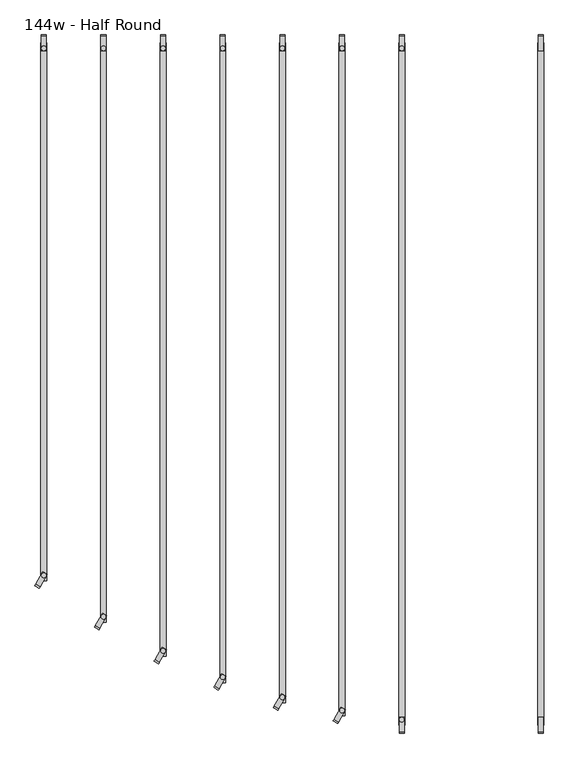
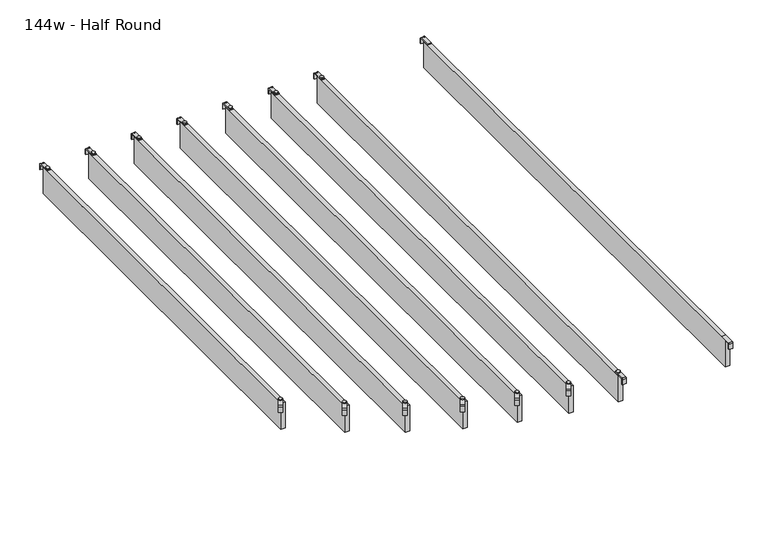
"""IFC4 building model written with IfcOpenShell, lengths in millimetres: furniture geometry, Haworth_Pergola_Ceiling_Slat_Radial : 144w - Half Round."""

from ifc_helpers import new_model, si_unit, point, frame, frame_2d, origin, place, context, project, spatial, polyline, circle_curve, trimmed, segment, composite_curve, outline, extrude, source, transform, mapped, element, save


def furniture_144w_half_round_7459aa78(model_context):
    return source(origin(), model_context, "Body", "SweptSolid", [
        extrude(outline(composite_curve([segment(polyline([(2253.0946, 2419.2231711), (2250.4345993, 2419.2231711), (2250.4345993, 2437.2635571)]), True, "CONTINUOUS"), segment(trimmed(circle_curve(frame_2d((2249.4251568, 2437.2635571)), 1.0094425), [point((2250.4345993, 2437.2635571))], [point((2249.4251568, 2438.2729997))], True, "CARTESIAN"), True, "CONTINUOUS"), segment(polyline([(2249.4251568, 2438.2729997), (2212.4346, 2438.2729997), (2212.4346, 2440.9329992), (2249.4116, 2440.9329992)]), True, "CONTINUOUS"), segment(trimmed(circle_curve(frame_2d((2249.4116, 2437.2499992)), 3.683), [point((2249.4116, 2440.9329992))], [point((2253.0946, 2437.2499992))], False, "CARTESIAN"), True, "CONTINUOUS"), segment(polyline([(2253.0946, 2437.2499992), (2253.0946, 2419.2231711)]), True, "CONTINUOUS")], self_intersect=False)), frame((209.4069997, 0.0, 0.0), z_axis=(1.0, 0.0, 0.0), x_axis=(0.0, 1.0, 0.0)), (0.0, 0.0, 1.0), 13.0),
        extrude(outline(composite_curve([segment(polyline([(471.1824, 2419.2231711), (471.1824, 2437.2499992)]), True, "CONTINUOUS"), segment(trimmed(circle_curve(frame_2d((474.8654, 2437.2499992)), 3.683), [point((471.1824, 2437.2499992))], [point((474.8654, 2440.9329992))], False, "CARTESIAN"), True, "CONTINUOUS"), segment(polyline([(474.8654, 2440.9329992), (511.8424, 2440.9329992), (511.8424, 2438.2729997), (474.8518432, 2438.2729997)]), True, "CONTINUOUS"), segment(trimmed(circle_curve(frame_2d((474.8518432, 2437.2635571)), 1.0094425), [point((474.8518432, 2438.2729997))], [point((473.8424007, 2437.2635571))], True, "CARTESIAN"), True, "CONTINUOUS"), segment(polyline([(473.8424007, 2437.2635571), (473.8424007, 2419.2231711), (471.1824, 2419.2231711)]), True, "CONTINUOUS")], self_intersect=False)), frame((209.4069997, 0.0, 0.0), z_axis=(1.0, 0.0, 0.0), x_axis=(0.0, 1.0, 0.0)), (0.0, 0.0, 1.0), 13.0),
        extrude(outline(polyline([(208.407, 491.6424), (208.407, 2232.6346), (223.393, 2232.6346), (223.393, 491.6424), (208.407, 491.6424)])), frame((0.0, 0.0, 2346.198), z_axis=(0.0, 0.0, 1.0), x_axis=(1.0, 0.0, 0.0)), (0.0, 0.0, 1.0), 92.202),
        extrude(outline(composite_curve([segment(trimmed(circle_curve(frame_2d((-139.7, 2218.9346)), 5.9838099), [point((-139.7, 2212.9507901))], [point((-139.7, 2224.9184099))], False, "CARTESIAN"), True, "CONTINUOUS"), segment(trimmed(circle_curve(frame_2d((-139.7, 2218.9346)), 5.9838099), [point((-139.7, 2224.9184099))], [point((-139.7, 2212.9507901))], False, "CARTESIAN"), True, "CONTINUOUS")], self_intersect=False)), frame((0.0, 0.0, 2440.9329992), z_axis=(0.0, 0.0, 1.0), x_axis=(1.0, 0.0, 0.0)), (0.0, 0.0, 1.0), 3.4400008),
        extrude(outline(composite_curve([segment(trimmed(circle_curve(frame_2d((-139.7, 505.3424)), 5.9838099), [point((-139.7, 511.3262099))], [point((-139.7, 499.3585901))], False, "CARTESIAN"), True, "CONTINUOUS"), segment(trimmed(circle_curve(frame_2d((-139.7, 505.3424)), 5.9838099), [point((-139.7, 499.3585901))], [point((-139.7, 511.3262099))], False, "CARTESIAN"), True, "CONTINUOUS")], self_intersect=False)), frame((0.0, 0.0, 2440.9329992), z_axis=(0.0, 0.0, 1.0), x_axis=(1.0, 0.0, 0.0)), (0.0, 0.0, 1.0), 3.4400008),
        extrude(outline(composite_curve([segment(polyline([(2253.0946, 2419.2231711), (2250.4345993, 2419.2231711), (2250.4345993, 2437.2635571)]), True, "CONTINUOUS"), segment(trimmed(circle_curve(frame_2d((2249.4251568, 2437.2635571)), 1.0094425), [point((2250.4345993, 2437.2635571))], [point((2249.4251568, 2438.2729997))], True, "CARTESIAN"), True, "CONTINUOUS"), segment(polyline([(2249.4251568, 2438.2729997), (2212.4346, 2438.2729997), (2212.4346, 2440.9329992), (2249.4116, 2440.9329992)]), True, "CONTINUOUS"), segment(trimmed(circle_curve(frame_2d((2249.4116, 2437.2499992)), 3.683), [point((2249.4116, 2440.9329992))], [point((2253.0946, 2437.2499992))], False, "CARTESIAN"), True, "CONTINUOUS"), segment(polyline([(2253.0946, 2437.2499992), (2253.0946, 2419.2231711)]), True, "CONTINUOUS")], self_intersect=False)), frame((-146.1930003, 0.0, 0.0), z_axis=(1.0, 0.0, 0.0), x_axis=(0.0, 1.0, 0.0)), (0.0, 0.0, 1.0), 13.0),
        extrude(outline(composite_curve([segment(polyline([(471.1824, 2419.2231711), (471.1824, 2437.2499992)]), True, "CONTINUOUS"), segment(trimmed(circle_curve(frame_2d((474.8654, 2437.2499992)), 3.683), [point((471.1824, 2437.2499992))], [point((474.8654, 2440.9329992))], False, "CARTESIAN"), True, "CONTINUOUS"), segment(polyline([(474.8654, 2440.9329992), (511.8424, 2440.9329992), (511.8424, 2438.2729997), (474.8518432, 2438.2729997)]), True, "CONTINUOUS"), segment(trimmed(circle_curve(frame_2d((474.8518432, 2437.2635571)), 1.0094425), [point((474.8518432, 2438.2729997))], [point((473.8424007, 2437.2635571))], True, "CARTESIAN"), True, "CONTINUOUS"), segment(polyline([(473.8424007, 2437.2635571), (473.8424007, 2419.2231711), (471.1824, 2419.2231711)]), True, "CONTINUOUS")], self_intersect=False)), frame((-146.1930003, 0.0, 0.0), z_axis=(1.0, 0.0, 0.0), x_axis=(0.0, 1.0, 0.0)), (0.0, 0.0, 1.0), 13.0),
        extrude(outline(polyline([(-147.193, 491.6424), (-147.193, 2232.6346), (-132.207, 2232.6346), (-132.207, 491.6424), (-147.193, 491.6424)])), frame((0.0, 0.0, 2346.198), z_axis=(0.0, 0.0, 1.0), x_axis=(1.0, 0.0, 0.0)), (0.0, 0.0, 1.0), 92.202),
        extrude(outline(composite_curve([segment(trimmed(circle_curve(frame_2d((-1.0160034, 0.0159998)), 1.016), [point((-1.0160034, -1.0000002))], [point((-3.4e-06, 0.0159998))], True, "CARTESIAN"), True, "CONTINUOUS"), segment(polyline([(-3.4e-06, 0.0159998), (-3.4e-06, 36.778517), (2.5329992, 36.778517), (2.5329992, 0.0229991)]), True, "CONTINUOUS"), segment(trimmed(circle_curve(frame_2d((-1.1500008, 0.0229991)), 3.683), [point((2.5329992, 0.0229991))], [point((-1.1500008, -3.660001))], False, "CARTESIAN"), True, "CONTINUOUS"), segment(polyline([(-1.1500008, -3.660001), (-19.0498319, -3.660001), (-19.0498319, -1.0000002), (-1.0160034, -1.0000002)]), True, "CONTINUOUS")], self_intersect=False)), frame((-301.7208344, 499.072026, 2438.4), z_axis=(-0.8660254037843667, 0.5000000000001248, 0.0), x_axis=(0.0, 0.0, 1.0)), (0.0, 0.0, 1.0), 13.0000002),
        extrude(outline(composite_curve([segment(trimmed(circle_curve(frame_2d((-292.1, 2218.9346)), 5.9838099), [point((-292.1, 2212.9507901))], [point((-292.1, 2224.9184099))], False, "CARTESIAN"), True, "CONTINUOUS"), segment(trimmed(circle_curve(frame_2d((-292.1, 2218.9346)), 5.9838099), [point((-292.1, 2224.9184099))], [point((-292.1, 2212.9507901))], False, "CARTESIAN"), True, "CONTINUOUS")], self_intersect=False)), frame((0.0, 0.0, 2440.9329992), z_axis=(0.0, 0.0, 1.0), x_axis=(1.0, 0.0, 0.0)), (0.0, 0.0, 1.0), 3.4400008),
        extrude(outline(composite_curve([segment(trimmed(circle_curve(frame_2d((-292.1, 528.7358)), 5.9838099), [point((-292.1, 534.7196099))], [point((-292.1, 522.7519901))], False, "CARTESIAN"), True, "CONTINUOUS"), segment(trimmed(circle_curve(frame_2d((-292.1, 528.7358)), 5.9838099), [point((-292.1, 522.7519901))], [point((-292.1, 534.7196099))], False, "CARTESIAN"), True, "CONTINUOUS")], self_intersect=False)), frame((0.0, 0.0, 2440.9329992), z_axis=(0.0, 0.0, 1.0), x_axis=(1.0, 0.0, 0.0)), (0.0, 0.0, 1.0), 3.4400008),
        extrude(outline(composite_curve([segment(polyline([(2253.0946, 2419.2231711), (2250.4345993, 2419.2231711), (2250.4345993, 2437.2635571)]), True, "CONTINUOUS"), segment(trimmed(circle_curve(frame_2d((2249.4251568, 2437.2635571)), 1.0094425), [point((2250.4345993, 2437.2635571))], [point((2249.4251568, 2438.2729997))], True, "CARTESIAN"), True, "CONTINUOUS"), segment(polyline([(2249.4251568, 2438.2729997), (2212.4346, 2438.2729997), (2212.4346, 2440.9329992), (2249.4116, 2440.9329992)]), True, "CONTINUOUS"), segment(trimmed(circle_curve(frame_2d((2249.4116, 2437.2499992)), 3.683), [point((2249.4116, 2440.9329992))], [point((2253.0946, 2437.2499992))], False, "CARTESIAN"), True, "CONTINUOUS"), segment(polyline([(2253.0946, 2437.2499992), (2253.0946, 2419.2231711)]), True, "CONTINUOUS")], self_intersect=False)), frame((-298.5930003, 0.0, 0.0), z_axis=(1.0, 0.0, 0.0), x_axis=(0.0, 1.0, 0.0)), (0.0, 0.0, 1.0), 13.0),
        extrude(outline(polyline([(-299.593, 515.0358), (-299.593, 2232.6346), (-284.607, 2232.6346), (-284.607, 515.0358), (-299.593, 515.0358)])), frame((0.0, 0.0, 2346.198), z_axis=(0.0, 0.0, 1.0), x_axis=(1.0, 0.0, 0.0)), (0.0, 0.0, 1.0), 92.202),
        extrude(outline(composite_curve([segment(trimmed(circle_curve(frame_2d((-1.0160034, 0.0159998)), 1.016), [point((-1.0160034, -1.0000002))], [point((-3.4e-06, 0.0159998))], True, "CARTESIAN"), True, "CONTINUOUS"), segment(polyline([(-3.4e-06, 0.0159998), (-3.4e-06, 36.778517), (2.5329992, 36.778517), (2.5329992, 0.0229991)]), True, "CONTINUOUS"), segment(trimmed(circle_curve(frame_2d((-1.1500008, 0.0229991)), 3.683), [point((2.5329992, 0.0229991))], [point((-1.1500008, -3.660001))], False, "CARTESIAN"), True, "CONTINUOUS"), segment(polyline([(-1.1500008, -3.660001), (-19.0498319, -3.660001), (-19.0498319, -1.0000002), (-1.0160034, -1.0000002)]), True, "CONTINUOUS")], self_intersect=False)), frame((-454.1208344, 532.904826, 2438.4), z_axis=(-0.8660254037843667, 0.5000000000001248, 0.0), x_axis=(0.0, 0.0, 1.0)), (0.0, 0.0, 1.0), 13.0000002),
        extrude(outline(composite_curve([segment(trimmed(circle_curve(frame_2d((-444.5, 2218.9346)), 5.9838099), [point((-444.5, 2212.9507901))], [point((-444.5, 2224.9184099))], False, "CARTESIAN"), True, "CONTINUOUS"), segment(trimmed(circle_curve(frame_2d((-444.5, 2218.9346)), 5.9838099), [point((-444.5, 2224.9184099))], [point((-444.5, 2212.9507901))], False, "CARTESIAN"), True, "CONTINUOUS")], self_intersect=False)), frame((0.0, 0.0, 2440.9329992), z_axis=(0.0, 0.0, 1.0), x_axis=(1.0, 0.0, 0.0)), (0.0, 0.0, 1.0), 3.4400008),
        extrude(outline(composite_curve([segment(trimmed(circle_curve(frame_2d((-444.5, 562.5686)), 5.9838099), [point((-444.5, 568.5524099))], [point((-444.5, 556.5847901))], False, "CARTESIAN"), True, "CONTINUOUS"), segment(trimmed(circle_curve(frame_2d((-444.5, 562.5686)), 5.9838099), [point((-444.5, 556.5847901))], [point((-444.5, 568.5524099))], False, "CARTESIAN"), True, "CONTINUOUS")], self_intersect=False)), frame((0.0, 0.0, 2440.9329992), z_axis=(0.0, 0.0, 1.0), x_axis=(1.0, 0.0, 0.0)), (0.0, 0.0, 1.0), 3.4400008),
        extrude(outline(composite_curve([segment(polyline([(2253.0946, 2419.2231711), (2250.4345993, 2419.2231711), (2250.4345993, 2437.2635571)]), True, "CONTINUOUS"), segment(trimmed(circle_curve(frame_2d((2249.4251568, 2437.2635571)), 1.0094425), [point((2250.4345993, 2437.2635571))], [point((2249.4251568, 2438.2729997))], True, "CARTESIAN"), True, "CONTINUOUS"), segment(polyline([(2249.4251568, 2438.2729997), (2212.4346, 2438.2729997), (2212.4346, 2440.9329992), (2249.4116, 2440.9329992)]), True, "CONTINUOUS"), segment(trimmed(circle_curve(frame_2d((2249.4116, 2437.2499992)), 3.683), [point((2249.4116, 2440.9329992))], [point((2253.0946, 2437.2499992))], False, "CARTESIAN"), True, "CONTINUOUS"), segment(polyline([(2253.0946, 2437.2499992), (2253.0946, 2419.2231711)]), True, "CONTINUOUS")], self_intersect=False)), frame((-450.9930003, 0.0, 0.0), z_axis=(1.0, 0.0, 0.0), x_axis=(0.0, 1.0, 0.0)), (0.0, 0.0, 1.0), 13.0),
        extrude(outline(polyline([(-451.993, 548.8686), (-451.993, 2232.6346), (-437.007, 2232.6346), (-437.007, 548.8686), (-451.993, 548.8686)])), frame((0.0, 0.0, 2346.198), z_axis=(0.0, 0.0, 1.0), x_axis=(1.0, 0.0, 0.0)), (0.0, 0.0, 1.0), 92.202),
        extrude(outline(composite_curve([segment(trimmed(circle_curve(frame_2d((-1.0160034, 0.0159998)), 1.016), [point((-1.0160034, -1.0000002))], [point((-3.4e-06, 0.0159998))], True, "CARTESIAN"), True, "CONTINUOUS"), segment(polyline([(-3.4e-06, 0.0159998), (-3.4e-06, 36.778517), (2.5329992, 36.778517), (2.5329992, 0.0229991)]), True, "CONTINUOUS"), segment(trimmed(circle_curve(frame_2d((-1.1500008, 0.0229991)), 3.683), [point((2.5329992, 0.0229991))], [point((-1.1500008, -3.660001))], False, "CARTESIAN"), True, "CONTINUOUS"), segment(polyline([(-1.1500008, -3.660001), (-19.0498319, -3.660001), (-19.0498319, -1.0000002), (-1.0160034, -1.0000002)]), True, "CONTINUOUS")], self_intersect=False)), frame((-606.5208344, 584.289026, 2438.4), z_axis=(-0.8660254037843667, 0.5000000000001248, 0.0), x_axis=(0.0, 0.0, 1.0)), (0.0, 0.0, 1.0), 13.0000002),
        extrude(outline(composite_curve([segment(trimmed(circle_curve(frame_2d((-596.9, 2218.9346)), 5.9838099), [point((-596.9, 2212.9507901))], [point((-596.9, 2224.9184099))], False, "CARTESIAN"), True, "CONTINUOUS"), segment(trimmed(circle_curve(frame_2d((-596.9, 2218.9346)), 5.9838099), [point((-596.9, 2224.9184099))], [point((-596.9, 2212.9507901))], False, "CARTESIAN"), True, "CONTINUOUS")], self_intersect=False)), frame((0.0, 0.0, 2440.9329992), z_axis=(0.0, 0.0, 1.0), x_axis=(1.0, 0.0, 0.0)), (0.0, 0.0, 1.0), 3.4400008),
        extrude(outline(composite_curve([segment(trimmed(circle_curve(frame_2d((-596.9, 613.9528)), 5.9838099), [point((-596.9, 619.9366099))], [point((-596.9, 607.9689901))], False, "CARTESIAN"), True, "CONTINUOUS"), segment(trimmed(circle_curve(frame_2d((-596.9, 613.9528)), 5.9838099), [point((-596.9, 607.9689901))], [point((-596.9, 619.9366099))], False, "CARTESIAN"), True, "CONTINUOUS")], self_intersect=False)), frame((0.0, 0.0, 2440.9329992), z_axis=(0.0, 0.0, 1.0), x_axis=(1.0, 0.0, 0.0)), (0.0, 0.0, 1.0), 3.4400008),
        extrude(outline(composite_curve([segment(polyline([(2253.0946, 2419.2231711), (2250.4345993, 2419.2231711), (2250.4345993, 2437.2635571)]), True, "CONTINUOUS"), segment(trimmed(circle_curve(frame_2d((2249.4251568, 2437.2635571)), 1.0094425), [point((2250.4345993, 2437.2635571))], [point((2249.4251568, 2438.2729997))], True, "CARTESIAN"), True, "CONTINUOUS"), segment(polyline([(2249.4251568, 2438.2729997), (2212.4346, 2438.2729997), (2212.4346, 2440.9329992), (2249.4116, 2440.9329992)]), True, "CONTINUOUS"), segment(trimmed(circle_curve(frame_2d((2249.4116, 2437.2499992)), 3.683), [point((2249.4116, 2440.9329992))], [point((2253.0946, 2437.2499992))], False, "CARTESIAN"), True, "CONTINUOUS"), segment(polyline([(2253.0946, 2437.2499992), (2253.0946, 2419.2231711)]), True, "CONTINUOUS")], self_intersect=False)), frame((-603.3930003, 0.0, 0.0), z_axis=(1.0, 0.0, 0.0), x_axis=(0.0, 1.0, 0.0)), (0.0, 0.0, 1.0), 13.0),
        extrude(outline(polyline([(-604.393, 600.2528), (-604.393, 2232.6346), (-589.407, 2232.6346), (-589.407, 600.2528), (-604.393, 600.2528)])), frame((0.0, 0.0, 2346.198), z_axis=(0.0, 0.0, 1.0), x_axis=(1.0, 0.0, 0.0)), (0.0, 0.0, 1.0), 92.202),
        extrude(outline(composite_curve([segment(trimmed(circle_curve(frame_2d((-1.0160034, 0.0159998)), 1.016), [point((-1.0160034, -1.0000002))], [point((-3.4e-06, 0.0159998))], True, "CARTESIAN"), True, "CONTINUOUS"), segment(polyline([(-3.4e-06, 0.0159998), (-3.4e-06, 36.778517), (2.5329992, 36.778517), (2.5329992, 0.0229991)]), True, "CONTINUOUS"), segment(trimmed(circle_curve(frame_2d((-1.1500008, 0.0229991)), 3.683), [point((2.5329992, 0.0229991))], [point((-1.1500008, -3.660001))], False, "CARTESIAN"), True, "CONTINUOUS"), segment(polyline([(-1.1500008, -3.660001), (-19.0498319, -3.660001), (-19.0498319, -1.0000002), (-1.0160034, -1.0000002)]), True, "CONTINUOUS")], self_intersect=False)), frame((-758.9208344, 651.446626, 2438.4), z_axis=(-0.8660254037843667, 0.5000000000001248, 0.0), x_axis=(0.0, 0.0, 1.0)), (0.0, 0.0, 1.0), 13.0000002),
        extrude(outline(composite_curve([segment(trimmed(circle_curve(frame_2d((-749.3, 2218.9346)), 5.9838099), [point((-749.3, 2212.9507901))], [point((-749.3, 2224.9184099))], False, "CARTESIAN"), True, "CONTINUOUS"), segment(trimmed(circle_curve(frame_2d((-749.3, 2218.9346)), 5.9838099), [point((-749.3, 2224.9184099))], [point((-749.3, 2212.9507901))], False, "CARTESIAN"), True, "CONTINUOUS")], self_intersect=False)), frame((0.0, 0.0, 2440.9329992), z_axis=(0.0, 0.0, 1.0), x_axis=(1.0, 0.0, 0.0)), (0.0, 0.0, 1.0), 3.4400008),
        extrude(outline(composite_curve([segment(trimmed(circle_curve(frame_2d((-749.3, 681.1104)), 5.9838099), [point((-749.3, 687.0942099))], [point((-749.3, 675.1265901))], False, "CARTESIAN"), True, "CONTINUOUS"), segment(trimmed(circle_curve(frame_2d((-749.3, 681.1104)), 5.9838099), [point((-749.3, 675.1265901))], [point((-749.3, 687.0942099))], False, "CARTESIAN"), True, "CONTINUOUS")], self_intersect=False)), frame((0.0, 0.0, 2440.9329992), z_axis=(0.0, 0.0, 1.0), x_axis=(1.0, 0.0, 0.0)), (0.0, 0.0, 1.0), 3.4400008),
        extrude(outline(composite_curve([segment(polyline([(2253.0946, 2419.2231711), (2250.4345993, 2419.2231711), (2250.4345993, 2437.2635571)]), True, "CONTINUOUS"), segment(trimmed(circle_curve(frame_2d((2249.4251568, 2437.2635571)), 1.0094425), [point((2250.4345993, 2437.2635571))], [point((2249.4251568, 2438.2729997))], True, "CARTESIAN"), True, "CONTINUOUS"), segment(polyline([(2249.4251568, 2438.2729997), (2212.4346, 2438.2729997), (2212.4346, 2440.9329992), (2249.4116, 2440.9329992)]), True, "CONTINUOUS"), segment(trimmed(circle_curve(frame_2d((2249.4116, 2437.2499992)), 3.683), [point((2249.4116, 2440.9329992))], [point((2253.0946, 2437.2499992))], False, "CARTESIAN"), True, "CONTINUOUS"), segment(polyline([(2253.0946, 2437.2499992), (2253.0946, 2419.2231711)]), True, "CONTINUOUS")], self_intersect=False)), frame((-755.7930003, 0.0, 0.0), z_axis=(1.0, 0.0, 0.0), x_axis=(0.0, 1.0, 0.0)), (0.0, 0.0, 1.0), 13.0),
        extrude(outline(polyline([(-756.793, 667.4104), (-756.793, 2232.6346), (-741.807, 2232.6346), (-741.807, 667.4104), (-756.793, 667.4104)])), frame((0.0, 0.0, 2346.198), z_axis=(0.0, 0.0, 1.0), x_axis=(1.0, 0.0, 0.0)), (0.0, 0.0, 1.0), 92.202),
        extrude(outline(composite_curve([segment(trimmed(circle_curve(frame_2d((-1.0160034, 0.0159998)), 1.016), [point((-1.0160034, -1.0000002))], [point((-3.4e-06, 0.0159998))], True, "CARTESIAN"), True, "CONTINUOUS"), segment(polyline([(-3.4e-06, 0.0159998), (-3.4e-06, 36.778517), (2.5329992, 36.778517), (2.5329992, 0.0229991)]), True, "CONTINUOUS"), segment(trimmed(circle_curve(frame_2d((-1.1500008, 0.0229991)), 3.683), [point((2.5329992, 0.0229991))], [point((-1.1500008, -3.660001))], False, "CARTESIAN"), True, "CONTINUOUS"), segment(polyline([(-1.1500008, -3.660001), (-19.0498319, -3.660001), (-19.0498319, -1.0000002), (-1.0160034, -1.0000002)]), True, "CONTINUOUS")], self_intersect=False)), frame((-911.3208344, 738.340026, 2438.4), z_axis=(-0.8660254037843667, 0.5000000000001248, 0.0), x_axis=(0.0, 0.0, 1.0)), (0.0, 0.0, 1.0), 13.0000002),
        extrude(outline(composite_curve([segment(trimmed(circle_curve(frame_2d((-901.7, 2218.9346)), 5.9838099), [point((-901.7, 2212.9507901))], [point((-901.7, 2224.9184099))], False, "CARTESIAN"), True, "CONTINUOUS"), segment(trimmed(circle_curve(frame_2d((-901.7, 2218.9346)), 5.9838099), [point((-901.7, 2224.9184099))], [point((-901.7, 2212.9507901))], False, "CARTESIAN"), True, "CONTINUOUS")], self_intersect=False)), frame((0.0, 0.0, 2440.9329992), z_axis=(0.0, 0.0, 1.0), x_axis=(1.0, 0.0, 0.0)), (0.0, 0.0, 1.0), 3.4400008),
        extrude(outline(composite_curve([segment(trimmed(circle_curve(frame_2d((-901.7, 768.0038)), 5.9838099), [point((-901.7, 773.9876099))], [point((-901.7, 762.0199901))], False, "CARTESIAN"), True, "CONTINUOUS"), segment(trimmed(circle_curve(frame_2d((-901.7, 768.0038)), 5.9838099), [point((-901.7, 762.0199901))], [point((-901.7, 773.9876099))], False, "CARTESIAN"), True, "CONTINUOUS")], self_intersect=False)), frame((0.0, 0.0, 2440.9329992), z_axis=(0.0, 0.0, 1.0), x_axis=(1.0, 0.0, 0.0)), (0.0, 0.0, 1.0), 3.4400008),
        extrude(outline(composite_curve([segment(polyline([(2253.0946, 2419.2231711), (2250.4345993, 2419.2231711), (2250.4345993, 2437.2635571)]), True, "CONTINUOUS"), segment(trimmed(circle_curve(frame_2d((2249.4251568, 2437.2635571)), 1.0094425), [point((2250.4345993, 2437.2635571))], [point((2249.4251568, 2438.2729997))], True, "CARTESIAN"), True, "CONTINUOUS"), segment(polyline([(2249.4251568, 2438.2729997), (2212.4346, 2438.2729997), (2212.4346, 2440.9329992), (2249.4116, 2440.9329992)]), True, "CONTINUOUS"), segment(trimmed(circle_curve(frame_2d((2249.4116, 2437.2499992)), 3.683), [point((2249.4116, 2440.9329992))], [point((2253.0946, 2437.2499992))], False, "CARTESIAN"), True, "CONTINUOUS"), segment(polyline([(2253.0946, 2437.2499992), (2253.0946, 2419.2231711)]), True, "CONTINUOUS")], self_intersect=False)), frame((-908.1930003, 0.0, 0.0), z_axis=(1.0, 0.0, 0.0), x_axis=(0.0, 1.0, 0.0)), (0.0, 0.0, 1.0), 13.0),
        extrude(outline(polyline([(-909.193, 754.3038), (-909.193, 2232.6346), (-894.207, 2232.6346), (-894.207, 754.3038), (-909.193, 754.3038)])), frame((0.0, 0.0, 2346.198), z_axis=(0.0, 0.0, 1.0), x_axis=(1.0, 0.0, 0.0)), (0.0, 0.0, 1.0), 92.202),
        extrude(outline(composite_curve([segment(trimmed(circle_curve(frame_2d((-1.0160034, 0.0159998)), 1.016), [point((-1.0160034, -1.0000002))], [point((-3.4e-06, 0.0159998))], True, "CARTESIAN"), True, "CONTINUOUS"), segment(polyline([(-3.4e-06, 0.0159998), (-3.4e-06, 36.778517), (2.5329992, 36.778517), (2.5329992, 0.0229991)]), True, "CONTINUOUS"), segment(trimmed(circle_curve(frame_2d((-1.1500008, 0.0229991)), 3.683), [point((2.5329992, 0.0229991))], [point((-1.1500008, -3.660001))], False, "CARTESIAN"), True, "CONTINUOUS"), segment(polyline([(-1.1500008, -3.660001), (-19.0498319, -3.660001), (-19.0498319, -1.0000002), (-1.0160034, -1.0000002)]), True, "CONTINUOUS")], self_intersect=False)), frame((-1063.7208344, 844.156426, 2438.4), z_axis=(-0.8660254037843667, 0.5000000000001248, 0.0), x_axis=(0.0, 0.0, 1.0)), (0.0, 0.0, 1.0), 13.0000002),
        extrude(outline(composite_curve([segment(trimmed(circle_curve(frame_2d((-1054.1, 2218.9346)), 5.9838099), [point((-1054.1, 2212.9507901))], [point((-1054.1, 2224.9184099))], False, "CARTESIAN"), True, "CONTINUOUS"), segment(trimmed(circle_curve(frame_2d((-1054.1, 2218.9346)), 5.9838099), [point((-1054.1, 2224.9184099))], [point((-1054.1, 2212.9507901))], False, "CARTESIAN"), True, "CONTINUOUS")], self_intersect=False)), frame((0.0, 0.0, 2440.9329992), z_axis=(0.0, 0.0, 1.0), x_axis=(1.0, 0.0, 0.0)), (0.0, 0.0, 1.0), 3.4400008),
        extrude(outline(composite_curve([segment(trimmed(circle_curve(frame_2d((-1054.1, 873.8202)), 5.9838099), [point((-1054.1, 879.8040099))], [point((-1054.1, 867.8363901))], False, "CARTESIAN"), True, "CONTINUOUS"), segment(trimmed(circle_curve(frame_2d((-1054.1, 873.8202)), 5.9838099), [point((-1054.1, 867.8363901))], [point((-1054.1, 879.8040099))], False, "CARTESIAN"), True, "CONTINUOUS")], self_intersect=False)), frame((0.0, 0.0, 2440.9329992), z_axis=(0.0, 0.0, 1.0), x_axis=(1.0, 0.0, 0.0)), (0.0, 0.0, 1.0), 3.4400008),
        extrude(outline(composite_curve([segment(polyline([(2253.0946, 2419.2231711), (2250.4345993, 2419.2231711), (2250.4345993, 2437.2635571)]), True, "CONTINUOUS"), segment(trimmed(circle_curve(frame_2d((2249.4251568, 2437.2635571)), 1.0094425), [point((2250.4345993, 2437.2635571))], [point((2249.4251568, 2438.2729997))], True, "CARTESIAN"), True, "CONTINUOUS"), segment(polyline([(2249.4251568, 2438.2729997), (2212.4346, 2438.2729997), (2212.4346, 2440.9329992), (2249.4116, 2440.9329992)]), True, "CONTINUOUS"), segment(trimmed(circle_curve(frame_2d((2249.4116, 2437.2499992)), 3.683), [point((2249.4116, 2440.9329992))], [point((2253.0946, 2437.2499992))], False, "CARTESIAN"), True, "CONTINUOUS"), segment(polyline([(2253.0946, 2437.2499992), (2253.0946, 2419.2231711)]), True, "CONTINUOUS")], self_intersect=False)), frame((-1060.5930003, 0.0, 0.0), z_axis=(1.0, 0.0, 0.0), x_axis=(0.0, 1.0, 0.0)), (0.0, 0.0, 1.0), 13.0),
        extrude(outline(polyline([(-1061.593, 860.1202), (-1061.593, 2232.6346), (-1046.607, 2232.6346), (-1046.607, 860.1202), (-1061.593, 860.1202)])), frame((0.0, 0.0, 2346.198), z_axis=(0.0, 0.0, 1.0), x_axis=(1.0, 0.0, 0.0)), (0.0, 0.0, 1.0), 92.202),
    ])


if __name__ == "__main__":
    model = new_model("IFC4")
    model_context = context("Model", 3, world=origin())
    ifc_project = project(units=[si_unit("LENGTHUNIT", "METRE", prefix="MILLI")], contexts=[model_context])
    site = spatial("IfcSite", under=ifc_project)
    building = spatial("IfcBuilding", under=site)
    placement = place(None, origin())
    furniture_144w_half_round_shape = furniture_144w_half_round_7459aa78(model_context)
    element("IfcFurniture", 1, ObjectType="Haworth_Pergola_Ceiling_Slat_Radial : 144w - Half Round", at=placement, inside=building, context=model_context, shape_type="MappedRepresentation", body=[
        mapped(furniture_144w_half_round_shape, transform((0.0, 0.0, 0.0), x_axis=(1.0, 0.0, 0.0), y_axis=(0.0, 1.0, 0.0), z_axis=(0.0, 0.0, 1.0))),
    ])
    save(model, "model.ifc")
